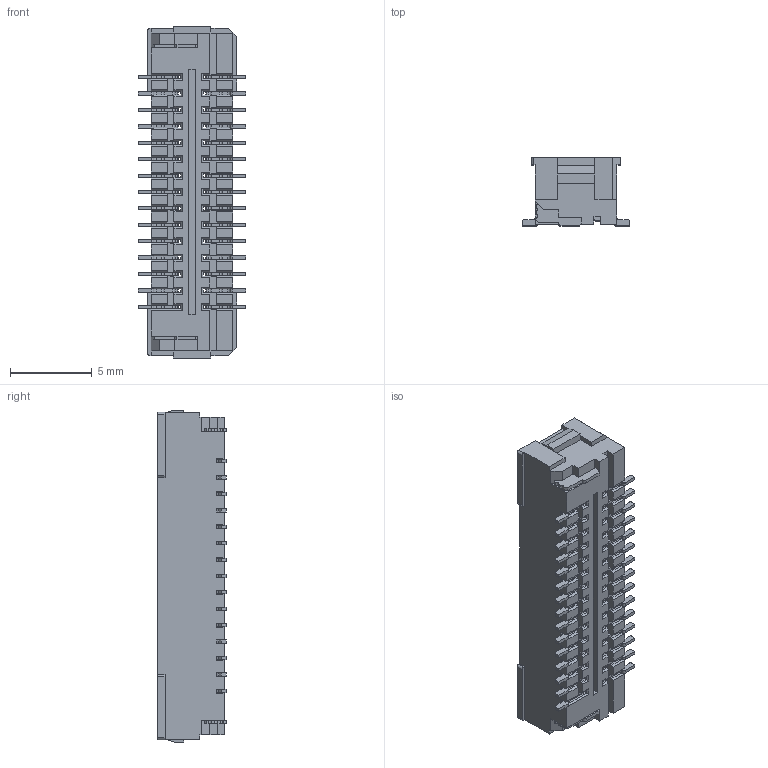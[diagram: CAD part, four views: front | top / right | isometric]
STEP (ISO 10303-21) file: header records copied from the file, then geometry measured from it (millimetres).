
FILE_DESCRIPTION(/* description */ (''),/* implementation_level */ '2;1');
FILE_NAME(/* name */ 'HC-SH25-2x15PLT-05 (1.00 双排 带扣 立贴-HCTL).stp',/* time_stamp */ '2026-10-21T09:52:28+08:00',/* author */ (''),/* organization */ (''),/* preprocessor_version */ 'ST-DEVELOPER v16',/* originating_system */ 'SIEMENS PLM Software NX 10.0',/* authorisation */ '');
FILE_SCHEMA (('AUTOMOTIVE_DESIGN { 1 0 10303 214 3 1 1 1 }'));
Products named in the file (1): HC-SH25-2x10PLT-05 (1.00  双排 带扣 
立贴-HCTL)
Bounding box: 6.6 x 4.17 x 20.3 mm (x, y, z)
Volume: 242.7 mm3; surface area: 1273.5 mm2
Topology: 1 solids, 3 shells, 2517 faces, 7791 edges, 5136 vertices
Faces by surface type: plane 1858, cylinder 659
Entity records: 86457 total; most frequent: CARTESIAN_POINT 15643, ORIENTED_EDGE 15582, DIRECTION 14079, EDGE_CURVE 7791, LINE 6407, VECTOR 6407, VERTEX_POINT 5136, AXIS2_PLACEMENT_3D 3836
